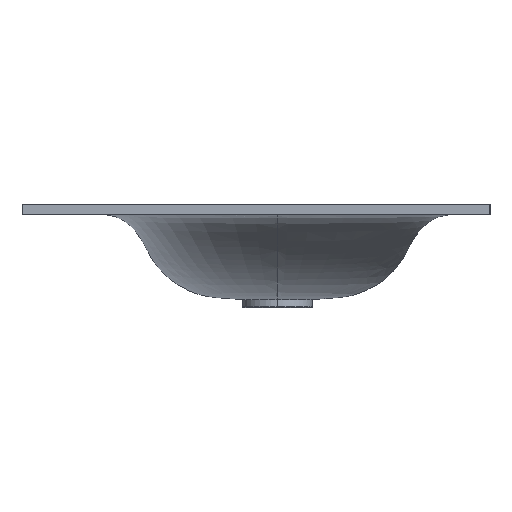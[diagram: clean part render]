
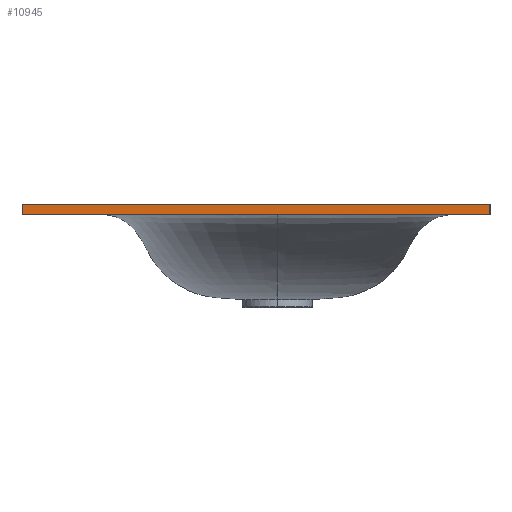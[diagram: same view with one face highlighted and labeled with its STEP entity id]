
A CAD part, left-side view. The second image highlights one B-rep face of the part: STEP entity #10945.
In plain terms, the highlighted planar face has unit normal (-1, 0, 0).
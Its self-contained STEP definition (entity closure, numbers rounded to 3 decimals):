
#312 = EDGE_CURVE ( 'NONE', #2656, #18600, #14785, .T. ) ;
#574 = EDGE_CURVE ( 'NONE', #1691, #1599, #6109, .T. ) ;
#584 = DIRECTION ( 'NONE',  ( 0., 0., 1. ) ) ;
#1033 = LINE ( 'NONE', #14408, #5032 ) ;
#1111 = CARTESIAN_POINT ( 'NONE',  ( 159480.974, 1675.128, -12. ) ) ;
#1186 = EDGE_CURVE ( 'NONE', #18600, #1599, #4325, .T. ) ;
#1599 = VERTEX_POINT ( 'NONE', #15070 ) ;
#1691 = VERTEX_POINT ( 'NONE', #16397 ) ;
#2496 = VECTOR ( 'NONE', #14688, 1000. ) ;
#2656 = VERTEX_POINT ( 'NONE', #8698 ) ;
#2803 = CARTESIAN_POINT ( 'NONE',  ( 159480.974, 1125.128, -12. ) ) ;
#4325 = LINE ( 'NONE', #8906, #15235 ) ;
#4371 = ORIENTED_EDGE ( 'NONE', *, *, #574, .T. ) ;
#5032 = VECTOR ( 'NONE', #16024, 1000. ) ;
#6109 = LINE ( 'NONE', #2803, #17503 ) ;
#8698 = CARTESIAN_POINT ( 'NONE',  ( 159480.974, 1675.128, -12. ) ) ;
#8906 = CARTESIAN_POINT ( 'NONE',  ( 159480.974, 1125.128, 0. ) ) ;
#9109 = EDGE_CURVE ( 'NONE', #2656, #1691, #1033, .T. ) ;
#9373 = FACE_OUTER_BOUND ( 'NONE', #11605, .T. ) ;
#9705 = ORIENTED_EDGE ( 'NONE', *, *, #312, .F. ) ;
#10279 = AXIS2_PLACEMENT_3D ( 'NONE', #11172, #12470, #584 ) ;
#10499 = DIRECTION ( 'NONE',  ( 0., -1., 0. ) ) ;
#10945 = ADVANCED_FACE ( 'NONE', ( #9373 ), #16875, .T. ) ;
#11172 = CARTESIAN_POINT ( 'NONE',  ( 159480.974, 1125.128, -12. ) ) ;
#11605 = EDGE_LOOP ( 'NONE', ( #12307, #9705, #14589, #4371 ) ) ;
#11999 = DIRECTION ( 'NONE',  ( 0., 0., 1. ) ) ;
#12307 = ORIENTED_EDGE ( 'NONE', *, *, #1186, .F. ) ;
#12470 = DIRECTION ( 'NONE',  ( -1., 0., 0. ) ) ;
#13358 = CARTESIAN_POINT ( 'NONE',  ( 159480.974, 1675.128, 0. ) ) ;
#14408 = CARTESIAN_POINT ( 'NONE',  ( 159480.974, 1125.128, -12. ) ) ;
#14589 = ORIENTED_EDGE ( 'NONE', *, *, #9109, .T. ) ;
#14688 = DIRECTION ( 'NONE',  ( 0., 0., 1. ) ) ;
#14785 = LINE ( 'NONE', #1111, #2496 ) ;
#15070 = CARTESIAN_POINT ( 'NONE',  ( 159480.974, 1125.128, 0. ) ) ;
#15235 = VECTOR ( 'NONE', #10499, 1000. ) ;
#16024 = DIRECTION ( 'NONE',  ( 0., -1., 0. ) ) ;
#16397 = CARTESIAN_POINT ( 'NONE',  ( 159480.974, 1125.128, -12. ) ) ;
#16875 = PLANE ( 'NONE',  #10279 ) ;
#17503 = VECTOR ( 'NONE', #11999, 1000. ) ;
#18600 = VERTEX_POINT ( 'NONE', #13358 ) ;
